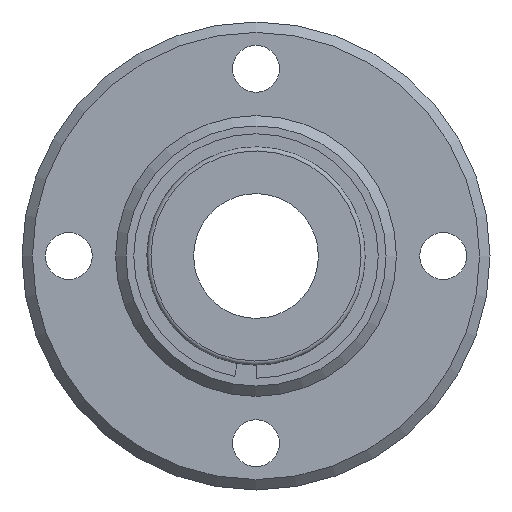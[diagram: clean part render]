
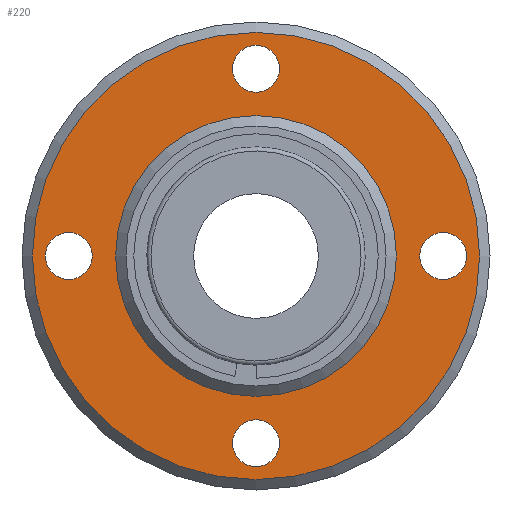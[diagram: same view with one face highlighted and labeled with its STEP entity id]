
A CAD part, left-side view. The second image highlights one B-rep face of the part: STEP entity #220.
In plain terms, the highlighted planar face has unit normal (-1, 0, 0).
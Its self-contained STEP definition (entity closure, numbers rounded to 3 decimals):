
#220=ADVANCED_FACE('',(#265,#266,#267,#268,#269,#270),#271,.F.);
#265=FACE_BOUND('',#387,.T.);
#266=FACE_BOUND('',#388,.T.);
#267=FACE_BOUND('',#389,.T.);
#268=FACE_BOUND('',#390,.T.);
#269=FACE_OUTER_BOUND('',#391,.T.);
#270=FACE_BOUND('',#392,.T.);
#271=PLANE('',#393);
#387=EDGE_LOOP('',(#511));
#388=EDGE_LOOP('',(#512));
#389=EDGE_LOOP('',(#513));
#390=EDGE_LOOP('',(#514));
#391=EDGE_LOOP('',(#515));
#392=EDGE_LOOP('',(#516));
#393=AXIS2_PLACEMENT_3D('',#517,#518,#519);
#511=ORIENTED_EDGE('',*,*,#749,.T.);
#512=ORIENTED_EDGE('',*,*,#750,.T.);
#513=ORIENTED_EDGE('',*,*,#751,.T.);
#514=ORIENTED_EDGE('',*,*,#752,.T.);
#515=ORIENTED_EDGE('',*,*,#753,.F.);
#516=ORIENTED_EDGE('',*,*,#754,.T.);
#517=CARTESIAN_POINT('',(-3.0,13.5,0.0));
#518=DIRECTION('',(1.0,0.0,0.0));
#519=DIRECTION('',(0.0,0.0,-1.0));
#749=EDGE_CURVE('',#808,#808,#809,.T.);
#750=EDGE_CURVE('',#810,#810,#811,.T.);
#751=EDGE_CURVE('',#812,#812,#813,.T.);
#752=EDGE_CURVE('',#814,#814,#815,.T.);
#753=EDGE_CURVE('',#816,#816,#817,.T.);
#754=EDGE_CURVE('',#818,#818,#819,.T.);
#808=VERTEX_POINT('',#916);
#809=CIRCLE('',#917,2.25);
#810=VERTEX_POINT('',#918);
#811=CIRCLE('',#919,2.25);
#812=VERTEX_POINT('',#920);
#813=CIRCLE('',#921,2.25);
#814=VERTEX_POINT('',#922);
#815=CIRCLE('',#923,2.25);
#816=VERTEX_POINT('',#924);
#817=CIRCLE('',#925,21.5);
#818=VERTEX_POINT('',#926);
#819=CIRCLE('',#927,13.5);
#916=CARTESIAN_POINT('',(-3.0,0.0,15.75));
#917=AXIS2_PLACEMENT_3D('',#1041,#1042,#1043);
#918=CARTESIAN_POINT('',(-3.0,0.0,-20.25));
#919=AXIS2_PLACEMENT_3D('',#1044,#1045,#1046);
#920=CARTESIAN_POINT('',(-3.0,-18.0,-2.25));
#921=AXIS2_PLACEMENT_3D('',#1047,#1048,#1049);
#922=CARTESIAN_POINT('',(-3.0,18.0,-2.25));
#923=AXIS2_PLACEMENT_3D('',#1050,#1051,#1052);
#924=CARTESIAN_POINT('',(-3.0,0.0,-21.5));
#925=AXIS2_PLACEMENT_3D('',#1053,#1054,#1055);
#926=CARTESIAN_POINT('',(-3.0,0.0,-13.5));
#927=AXIS2_PLACEMENT_3D('',#1056,#1057,#1058);
#1041=CARTESIAN_POINT('',(-3.0,0.0,18.0));
#1042=DIRECTION('',(1.0,0.0,0.0));
#1043=DIRECTION('',(0.0,0.0,-1.0));
#1044=CARTESIAN_POINT('',(-3.0,0.0,-18.0));
#1045=DIRECTION('',(1.0,0.0,0.0));
#1046=DIRECTION('',(0.0,0.0,-1.0));
#1047=CARTESIAN_POINT('',(-3.0,-18.0,0.0));
#1048=DIRECTION('',(1.0,0.0,0.0));
#1049=DIRECTION('',(0.0,0.0,-1.0));
#1050=CARTESIAN_POINT('',(-3.0,18.0,0.0));
#1051=DIRECTION('',(1.0,0.0,0.0));
#1052=DIRECTION('',(0.0,0.0,-1.0));
#1053=CARTESIAN_POINT('',(-3.0,0.0,0.0));
#1054=DIRECTION('',(1.0,0.0,0.0));
#1055=DIRECTION('',(0.0,0.0,-1.0));
#1056=CARTESIAN_POINT('',(-3.0,0.0,0.0));
#1057=DIRECTION('',(1.0,0.0,0.0));
#1058=DIRECTION('',(0.0,0.0,-1.0));
